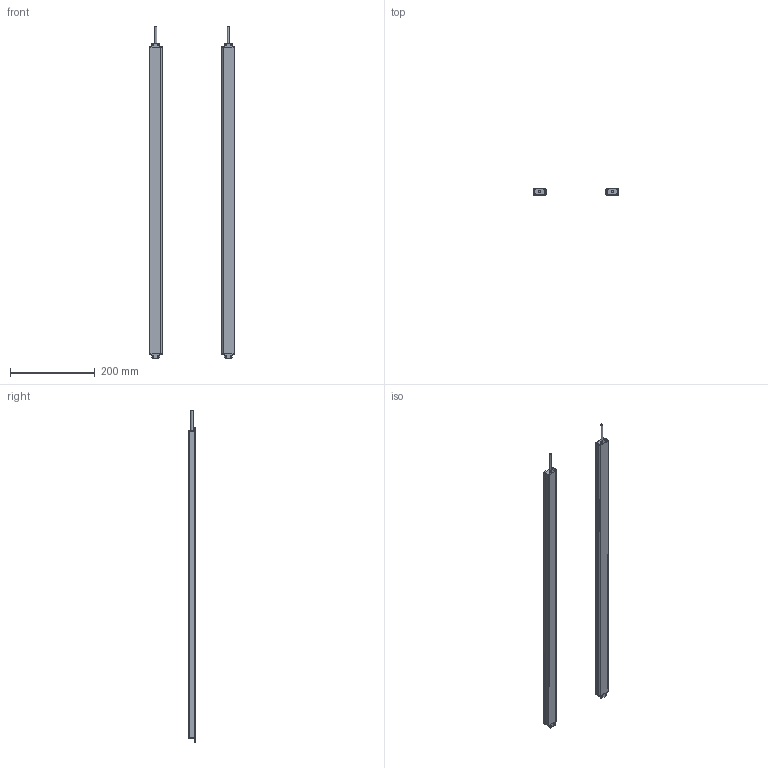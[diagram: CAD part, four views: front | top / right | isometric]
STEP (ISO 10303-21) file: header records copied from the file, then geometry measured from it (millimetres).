
FILE_DESCRIPTION(/* description */ (''),/* implementation_level */ '2;1');
FILE_NAME(/* name */ '3620（16X30ZW).stp',/* time_stamp */ '2020-07-14T19:18:25+08:00',/* author */ (''),/* organization */ (''),/* preprocessor_version */ 'ST-DEVELOPER v16',/* originating_system */ 'SIEMENS PLM Software NX 10.0',/* authorisation */ '');
FILE_SCHEMA (('AP203_CONFIGURATION_CONTROLLED_3D_DESIGN_OF_MECHANICAL_PARTS_AND_ASSEMBLIES_MIM_LF { 1 0 10303 403 2 1 2}'));
Length unit declared in the file: millimetre
Products named in the file (1): Admi58A03253m7ik
Bounding box: 200 x 16 x 781.5 mm (x, y, z)
Volume: 207893.4 mm3; surface area: 306910.9 mm2
Topology: 10 solids, 10 shells, 296 faces, 830 edges, 554 vertices
Faces by surface type: plane 160, cylinder 136
Full cylindrical faces by diameter (mm): 5 x2
Entity records: 9760 total; most frequent: DIRECTION 1692, CARTESIAN_POINT 1675, ORIENTED_EDGE 1652, EDGE_CURVE 826, AXIS2_PLACEMENT_3D 569, LINE 554, VECTOR 554, VERTEX_POINT 552
